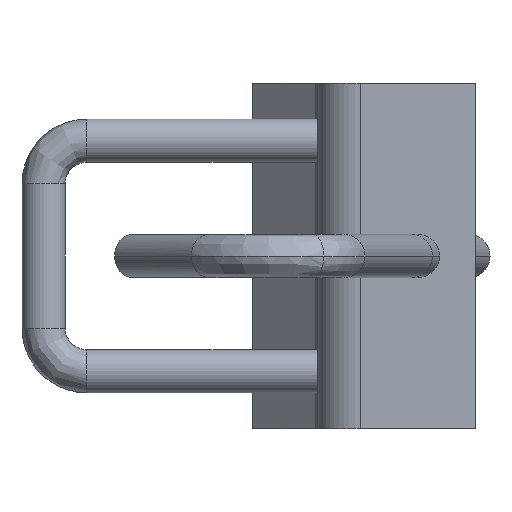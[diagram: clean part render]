
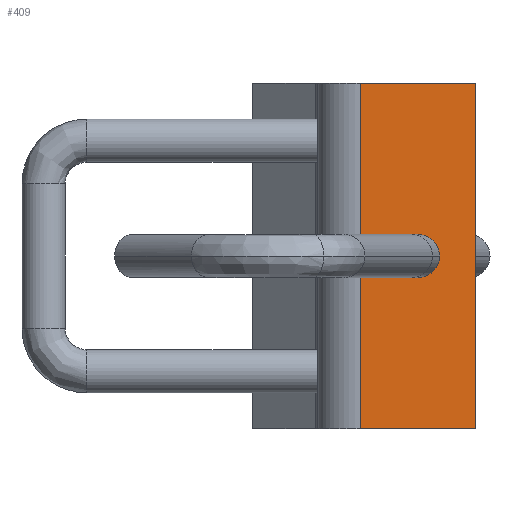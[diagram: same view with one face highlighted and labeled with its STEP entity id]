
A CAD part, left-side view. The second image highlights one B-rep face of the part: STEP entity #409.
In plain terms, the highlighted planar face has unit normal (-1, 0, 0).
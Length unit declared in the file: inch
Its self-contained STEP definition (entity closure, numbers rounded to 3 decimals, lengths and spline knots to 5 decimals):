
#409=ADVANCED_FACE('',(#1081,#1082),#1083,.T.);
#557=EDGE_CURVE('',#1288,#1324,#1325,.T.);
#595=EDGE_CURVE('',#1378,#1324,#1379,.T.);
#671=EDGE_CURVE('',#1486,#1487,#1488,.T.);
#707=EDGE_CURVE('',#1534,#1378,#1535,.T.);
#821=EDGE_CURVE('',#1487,#1486,#1683,.T.);
#981=EDGE_CURVE('',#1534,#1288,#1869,.T.);
#1081=FACE_OUTER_BOUND('',#2087,.T.);
#1082=FACE_BOUND('',#2088,.T.);
#1083=PLANE('',#2089);
#1288=VERTEX_POINT('',#2529);
#1324=VERTEX_POINT('',#2580);
#1325=LINE('',#2581,#2582);
#1378=VERTEX_POINT('',#2680);
#1379=LINE('',#2681,#2682);
#1486=VERTEX_POINT('',#3246);
#1487=VERTEX_POINT('',#3247);
#1488=ELLIPSE('',#3248,0.19058,0.1875);
#1534=VERTEX_POINT('',#3329);
#1535=LINE('',#3330,#3331);
#1683=ELLIPSE('',#3621,0.19058,0.1875);
#1869=LINE('',#3996,#3997);
#2087=EDGE_LOOP('',(#4268,#4269,#4270,#4271));
#2088=EDGE_LOOP('',(#4272,#4273));
#2089=AXIS2_PLACEMENT_3D('',#4274,#4275,#4276);
#2529=CARTESIAN_POINT('',(3.52252,-1.14678,3.0));
#2580=CARTESIAN_POINT('',(3.52252,-0.14678,3.0));
#2581=CARTESIAN_POINT('',(3.52252,-1.14678,3.0));
#2582=VECTOR('',#4501,1.0);
#2680=CARTESIAN_POINT('',(3.52252,-0.14678,0.0));
#2681=CARTESIAN_POINT('',(3.52252,-0.14678,0.0));
#2682=VECTOR('',#4553,1.0);
#3246=CARTESIAN_POINT('',(3.52252,-0.45015,1.5));
#3247=CARTESIAN_POINT('',(3.52252,-0.83131,1.5));
#3248=AXIS2_PLACEMENT_3D('',#4673,#4674,#4675);
#3329=CARTESIAN_POINT('',(3.52252,-1.14678,0.0));
#3330=CARTESIAN_POINT('',(3.52252,-1.14678,0.0));
#3331=VECTOR('',#4716,1.0);
#3621=AXIS2_PLACEMENT_3D('',#4954,#4955,#4956);
#3996=CARTESIAN_POINT('',(3.52252,-1.14678,0.0));
#3997=VECTOR('',#5200,1.0);
#4268=ORIENTED_EDGE('',*,*,#557,.T.);
#4269=ORIENTED_EDGE('',*,*,#595,.F.);
#4270=ORIENTED_EDGE('',*,*,#707,.F.);
#4271=ORIENTED_EDGE('',*,*,#981,.T.);
#4272=ORIENTED_EDGE('',*,*,#671,.F.);
#4273=ORIENTED_EDGE('',*,*,#821,.F.);
#4274=CARTESIAN_POINT('',(3.52252,-0.64678,0.0));
#4275=DIRECTION('',(-1.0,-0.0,0.0));
#4276=DIRECTION('',(0.0,-1.0,-0.0));
#4501=DIRECTION('',(0.0,1.0,0.0));
#4553=DIRECTION('',(0.0,0.0,1.0));
#4673=CARTESIAN_POINT('',(3.52252,-0.64073,1.5));
#4674=DIRECTION('',(-1.0,0.0,0.0));
#4675=DIRECTION('',(0.0,-1.0,0.0));
#4716=DIRECTION('',(0.0,1.0,0.0));
#4954=CARTESIAN_POINT('',(3.52252,-0.64073,1.5));
#4955=DIRECTION('',(-1.0,0.0,0.0));
#4956=DIRECTION('',(0.0,-1.0,0.0));
#5200=DIRECTION('',(0.0,0.0,1.0));
